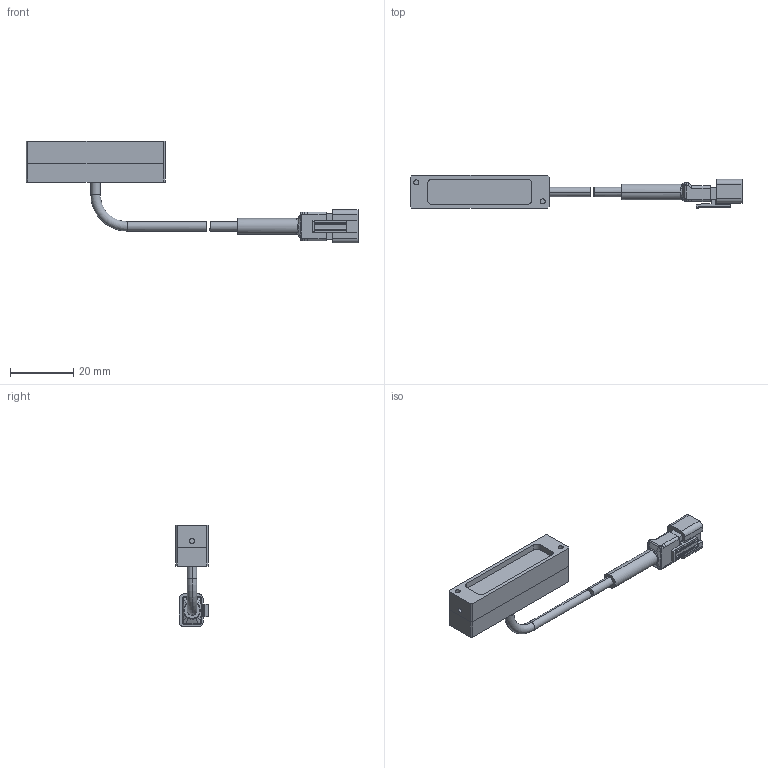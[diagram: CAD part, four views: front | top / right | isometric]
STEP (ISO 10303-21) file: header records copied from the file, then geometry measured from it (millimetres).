
FILE_DESCRIPTION (( 'STEP AP203' ), '1' );
FILE_NAME ('LDL2-33X8GR2.STEP', '2024-10-03T02:49:08', ( 'CCS' ), ( 'シーシーエス株式会社' ), 'SwSTEP 2.0', 'SolidWorks 2022', '' );
FILE_SCHEMA (( 'CONFIG_CONTROL_DESIGN' ));
Length unit declared in the file: millimetre
Products named in the file (6): ねじ_LDL2-33X8GR2_M2x8_皿ﾈｼﾞ0番1種(三価ｸﾛﾑ黒色) ; フレームB_LDL2-33X8GR2; フレームA_LDL2-33X8GR2; SMケーブル_LDL2-33X8GR2_パターン2; LDL2-33X8GR2; 発光面_LDL2-33X8GR2
Assembly tree (6 placements, depth 2):
  LDL2-33X8GR2
    フレームA_LDL2-33X8GR2
    フレームB_LDL2-33X8GR2
    ねじ_LDL2-33X8GR2_M2x8_皿ﾈｼﾞ0番1種(三価ｸﾛﾑ黒色)   x2
    発光面_LDL2-33X8GR2
    SMケーブル_LDL2-33X8GR2_パターン2
Bounding box: 105 x 10.4 x 32.25 mm (x, y, z)
Volume: 6866.3 mm3; surface area: 6564.1 mm2
Topology: 7 solids, 7 shells, 240 faces, 588 edges, 368 vertices
Faces by surface type: plane 119, cylinder 67, bspline 44, cone 8, torus 2
Entity records: 8925 total; most frequent: CARTESIAN_POINT 3256, ORIENTED_EDGE 1092, DIRECTION 945, EDGE_CURVE 546, VERTEX_POINT 344, VECTOR 325, LINE 325, AXIS2_PLACEMENT_3D 310
